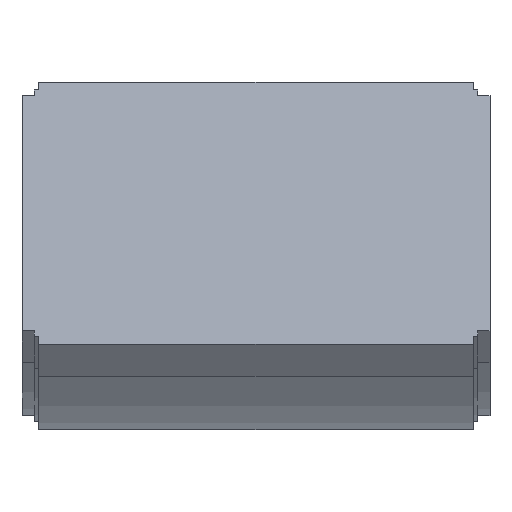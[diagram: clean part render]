
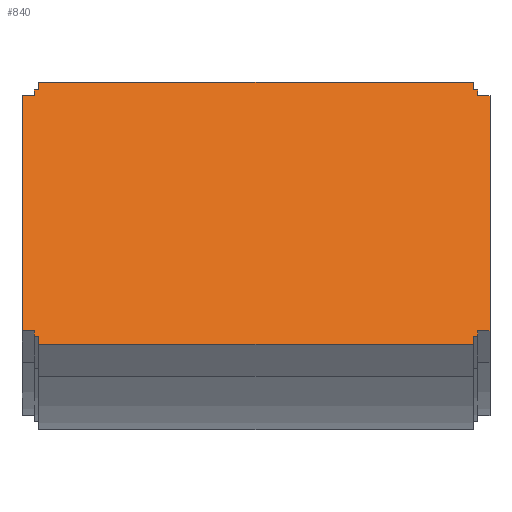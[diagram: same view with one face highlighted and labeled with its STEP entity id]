
A CAD part, top view. The second image highlights one B-rep face of the part: STEP entity #840.
In plain terms, the highlighted planar face has unit normal (0, 0.301, 0.954).
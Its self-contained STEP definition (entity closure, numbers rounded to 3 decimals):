
#18 = VERTEX_POINT ( 'NONE', #499 ) ;
#62 = ORIENTED_EDGE ( 'NONE', *, *, #1360, .T. ) ;
#69 = AXIS2_PLACEMENT_3D ( 'NONE', #369, #359, #901 ) ;
#82 = ORIENTED_EDGE ( 'NONE', *, *, #1041, .T. ) ;
#91 = ORIENTED_EDGE ( 'NONE', *, *, #117, .T. ) ;
#92 = LINE ( 'NONE', #869, #1089 ) ;
#94 = VECTOR ( 'NONE', #1061, 1000. ) ;
#97 = VERTEX_POINT ( 'NONE', #1122 ) ;
#117 = EDGE_CURVE ( 'NONE', #1058, #736, #513, .T. ) ;
#119 = VERTEX_POINT ( 'NONE', #257 ) ;
#125 = LINE ( 'NONE', #761, #94 ) ;
#126 = PLANE ( 'NONE',  #69 ) ;
#162 = ORIENTED_EDGE ( 'NONE', *, *, #828, .T. ) ;
#169 = ORIENTED_EDGE ( 'NONE', *, *, #1376, .T. ) ;
#184 = VERTEX_POINT ( 'NONE', #732 ) ;
#193 = VECTOR ( 'NONE', #1136, 1000. ) ;
#206 = VERTEX_POINT ( 'NONE', #717 ) ;
#207 = CARTESIAN_POINT ( 'NONE',  ( 110.25, 97.344, 234.505 ) ) ;
#225 = DIRECTION ( 'NONE',  ( -1., 0., 0. ) ) ;
#229 = CARTESIAN_POINT ( 'NONE',  ( 116.25, -19.487, 271.341 ) ) ;
#242 = ORIENTED_EDGE ( 'NONE', *, *, #329, .T. ) ;
#244 = CARTESIAN_POINT ( 'NONE',  ( 110.25, -19.487, 271.341 ) ) ;
#255 = CARTESIAN_POINT ( 'NONE',  ( 110.25, -22.348, 272.243 ) ) ;
#257 = CARTESIAN_POINT ( 'NONE',  ( -110.25, 100.205, 233.603 ) ) ;
#263 = DIRECTION ( 'NONE',  ( 0., -0.954, 0.301 ) ) ;
#275 = CARTESIAN_POINT ( 'NONE',  ( -110.25, -22.348, 272.243 ) ) ;
#297 = VECTOR ( 'NONE', #263, 1000. ) ;
#309 = CARTESIAN_POINT ( 'NONE',  ( -110.25, -19.487, 271.341 ) ) ;
#329 = EDGE_CURVE ( 'NONE', #672, #97, #1035, .T. ) ;
#342 = CARTESIAN_POINT ( 'NONE',  ( -110.25, 97.344, 234.505 ) ) ;
#359 = DIRECTION ( 'NONE',  ( 0., 0.301, 0.954 ) ) ;
#366 = ORIENTED_EDGE ( 'NONE', *, *, #909, .T. ) ;
#369 = CARTESIAN_POINT ( 'NONE',  ( -107.95, 100.205, 233.603 ) ) ;
#391 = VECTOR ( 'NONE', #668, 1000. ) ;
#396 = DIRECTION ( 'NONE',  ( 0., 0.954, -0.301 ) ) ;
#397 = VERTEX_POINT ( 'NONE', #554 ) ;
#400 = CARTESIAN_POINT ( 'NONE',  ( -107.95, 104.02, 232.4 ) ) ;
#405 = EDGE_CURVE ( 'NONE', #961, #1319, #1091, .T. ) ;
#419 = LINE ( 'NONE', #275, #1234 ) ;
#430 = ORIENTED_EDGE ( 'NONE', *, *, #405, .T. ) ;
#433 = VERTEX_POINT ( 'NONE', #342 ) ;
#437 = LINE ( 'NONE', #1042, #1375 ) ;
#440 = VERTEX_POINT ( 'NONE', #229 ) ;
#448 = LINE ( 'NONE', #504, #872 ) ;
#449 = ORIENTED_EDGE ( 'NONE', *, *, #1204, .T. ) ;
#465 = DIRECTION ( 'NONE',  ( 1., 0., 0. ) ) ;
#491 = DIRECTION ( 'NONE',  ( -1., 0., 0. ) ) ;
#496 = CARTESIAN_POINT ( 'NONE',  ( -107.95, 100.205, 233.603 ) ) ;
#499 = CARTESIAN_POINT ( 'NONE',  ( 110.25, 100.205, 233.603 ) ) ;
#504 = CARTESIAN_POINT ( 'NONE',  ( 110.25, 100.205, 233.603 ) ) ;
#508 = CARTESIAN_POINT ( 'NONE',  ( -107.95, -26.163, 273.446 ) ) ;
#513 = LINE ( 'NONE', #1361, #1079 ) ;
#522 = CARTESIAN_POINT ( 'NONE',  ( -110.25, 97.344, 234.505 ) ) ;
#526 = VECTOR ( 'NONE', #1082, 1000. ) ;
#532 = ORIENTED_EDGE ( 'NONE', *, *, #1147, .T. ) ;
#554 = CARTESIAN_POINT ( 'NONE',  ( 107.95, -26.163, 273.446 ) ) ;
#556 = LINE ( 'NONE', #496, #1271 ) ;
#580 = FACE_OUTER_BOUND ( 'NONE', #903, .T. ) ;
#584 = DIRECTION ( 'NONE',  ( 1., 0., 0. ) ) ;
#586 = ORIENTED_EDGE ( 'NONE', *, *, #1118, .T. ) ;
#595 = VECTOR ( 'NONE', #465, 1000. ) ;
#596 = CARTESIAN_POINT ( 'NONE',  ( -107.95, -22.348, 272.243 ) ) ;
#614 = VERTEX_POINT ( 'NONE', #1016 ) ;
#619 = LINE ( 'NONE', #956, #1048 ) ;
#646 = ORIENTED_EDGE ( 'NONE', *, *, #1301, .T. ) ;
#658 = CARTESIAN_POINT ( 'NONE',  ( -110.25, 100.205, 233.603 ) ) ;
#659 = ORIENTED_EDGE ( 'NONE', *, *, #699, .T. ) ;
#664 = VECTOR ( 'NONE', #584, 1000. ) ;
#668 = DIRECTION ( 'NONE',  ( 1., 0., 0. ) ) ;
#672 = VERTEX_POINT ( 'NONE', #809 ) ;
#699 = EDGE_CURVE ( 'NONE', #1043, #779, #419, .T. ) ;
#700 = CARTESIAN_POINT ( 'NONE',  ( -107.95, -26.163, 273.446 ) ) ;
#704 = ORIENTED_EDGE ( 'NONE', *, *, #870, .T. ) ;
#705 = EDGE_CURVE ( 'NONE', #440, #672, #1157, .T. ) ;
#717 = CARTESIAN_POINT ( 'NONE',  ( 110.25, -22.348, 272.243 ) ) ;
#721 = LINE ( 'NONE', #309, #595 ) ;
#732 = CARTESIAN_POINT ( 'NONE',  ( 107.95, 100.205, 233.603 ) ) ;
#736 = VERTEX_POINT ( 'NONE', #400 ) ;
#743 = CARTESIAN_POINT ( 'NONE',  ( -116.25, -19.487, 271.341 ) ) ;
#761 = CARTESIAN_POINT ( 'NONE',  ( 107.95, 100.205, 233.603 ) ) ;
#763 = ORIENTED_EDGE ( 'NONE', *, *, #705, .T. ) ;
#769 = LINE ( 'NONE', #1008, #1388 ) ;
#774 = VERTEX_POINT ( 'NONE', #700 ) ;
#775 = EDGE_CURVE ( 'NONE', #614, #774, #941, .T. ) ;
#779 = VERTEX_POINT ( 'NONE', #1128 ) ;
#782 = EDGE_CURVE ( 'NONE', #736, #959, #556, .T. ) ;
#804 = EDGE_CURVE ( 'NONE', #779, #614, #619, .T. ) ;
#809 = CARTESIAN_POINT ( 'NONE',  ( 116.25, 97.344, 234.505 ) ) ;
#818 = CARTESIAN_POINT ( 'NONE',  ( 116.25, -19.487, 271.341 ) ) ;
#828 = EDGE_CURVE ( 'NONE', #119, #433, #769, .T. ) ;
#838 = DIRECTION ( 'NONE',  ( 0., 0.954, -0.301 ) ) ;
#840 = ADVANCED_FACE ( 'NONE', ( #580 ), #126, .T. ) ;
#841 = LINE ( 'NONE', #1212, #664 ) ;
#869 = CARTESIAN_POINT ( 'NONE',  ( 110.25, 100.205, 233.603 ) ) ;
#870 = EDGE_CURVE ( 'NONE', #876, #440, #841, .T. ) ;
#872 = VECTOR ( 'NONE', #396, 1000. ) ;
#876 = VERTEX_POINT ( 'NONE', #244 ) ;
#895 = DIRECTION ( 'NONE',  ( 0., -0.954, 0.301 ) ) ;
#901 = DIRECTION ( 'NONE',  ( 1., 0., 0. ) ) ;
#903 = EDGE_LOOP ( 'NONE', ( #62, #162, #532, #430, #1302, #659, #1009, #1007, #449, #586, #1206, #366, #704, #763, #242, #82, #169, #646, #91, #1069 ) ) ;
#909 = EDGE_CURVE ( 'NONE', #206, #876, #1060, .T. ) ;
#941 = LINE ( 'NONE', #596, #297 ) ;
#956 = CARTESIAN_POINT ( 'NONE',  ( -110.25, -22.348, 272.243 ) ) ;
#959 = VERTEX_POINT ( 'NONE', #1356 ) ;
#961 = VERTEX_POINT ( 'NONE', #1021 ) ;
#964 = VECTOR ( 'NONE', #1174, 1000. ) ;
#985 = CARTESIAN_POINT ( 'NONE',  ( 110.25, -22.348, 272.243 ) ) ;
#989 = DIRECTION ( 'NONE',  ( -1., 0., 0. ) ) ;
#995 = LINE ( 'NONE', #508, #1011 ) ;
#1007 = ORIENTED_EDGE ( 'NONE', *, *, #775, .T. ) ;
#1008 = CARTESIAN_POINT ( 'NONE',  ( -110.25, 100.205, 233.603 ) ) ;
#1009 = ORIENTED_EDGE ( 'NONE', *, *, #804, .T. ) ;
#1011 = VECTOR ( 'NONE', #1260, 1000. ) ;
#1012 = DIRECTION ( 'NONE',  ( 0., 0.954, -0.301 ) ) ;
#1013 = VECTOR ( 'NONE', #1012, 1000. ) ;
#1016 = CARTESIAN_POINT ( 'NONE',  ( -107.95, -22.348, 272.243 ) ) ;
#1019 = CARTESIAN_POINT ( 'NONE',  ( 107.95, 104.02, 232.4 ) ) ;
#1021 = CARTESIAN_POINT ( 'NONE',  ( -116.25, 97.344, 234.505 ) ) ;
#1035 = LINE ( 'NONE', #207, #964 ) ;
#1041 = EDGE_CURVE ( 'NONE', #97, #18, #448, .T. ) ;
#1042 = CARTESIAN_POINT ( 'NONE',  ( 107.95, -22.348, 272.243 ) ) ;
#1043 = VERTEX_POINT ( 'NONE', #1134 ) ;
#1047 = DIRECTION ( 'NONE',  ( -1., 0., 0. ) ) ;
#1048 = VECTOR ( 'NONE', #1286, 1000. ) ;
#1058 = VERTEX_POINT ( 'NONE', #1019 ) ;
#1060 = LINE ( 'NONE', #255, #1013 ) ;
#1061 = DIRECTION ( 'NONE',  ( 0., 0.954, -0.301 ) ) ;
#1069 = ORIENTED_EDGE ( 'NONE', *, *, #782, .T. ) ;
#1079 = VECTOR ( 'NONE', #491, 1000. ) ;
#1082 = DIRECTION ( 'NONE',  ( 0., -0.954, 0.301 ) ) ;
#1085 = CARTESIAN_POINT ( 'NONE',  ( -116.25, -19.487, 271.341 ) ) ;
#1089 = VECTOR ( 'NONE', #989, 1000. ) ;
#1091 = LINE ( 'NONE', #1085, #526 ) ;
#1102 = VECTOR ( 'NONE', #1047, 1000. ) ;
#1115 = LINE ( 'NONE', #985, #391 ) ;
#1118 = EDGE_CURVE ( 'NONE', #397, #1245, #437, .T. ) ;
#1122 = CARTESIAN_POINT ( 'NONE',  ( 110.25, 97.344, 234.505 ) ) ;
#1128 = CARTESIAN_POINT ( 'NONE',  ( -110.25, -22.348, 272.243 ) ) ;
#1134 = CARTESIAN_POINT ( 'NONE',  ( -110.25, -19.487, 271.341 ) ) ;
#1136 = DIRECTION ( 'NONE',  ( 0., 0.954, -0.301 ) ) ;
#1147 = EDGE_CURVE ( 'NONE', #433, #961, #1230, .T. ) ;
#1157 = LINE ( 'NONE', #818, #193 ) ;
#1165 = DIRECTION ( 'NONE',  ( 0., -0.954, 0.301 ) ) ;
#1171 = CARTESIAN_POINT ( 'NONE',  ( 107.95, -22.348, 272.243 ) ) ;
#1174 = DIRECTION ( 'NONE',  ( -1., 0., 0. ) ) ;
#1204 = EDGE_CURVE ( 'NONE', #774, #397, #995, .T. ) ;
#1206 = ORIENTED_EDGE ( 'NONE', *, *, #1350, .T. ) ;
#1212 = CARTESIAN_POINT ( 'NONE',  ( 110.25, -19.487, 271.341 ) ) ;
#1230 = LINE ( 'NONE', #522, #1102 ) ;
#1234 = VECTOR ( 'NONE', #1359, 1000. ) ;
#1245 = VERTEX_POINT ( 'NONE', #1171 ) ;
#1260 = DIRECTION ( 'NONE',  ( 1., 0., 0. ) ) ;
#1271 = VECTOR ( 'NONE', #1165, 1000. ) ;
#1286 = DIRECTION ( 'NONE',  ( 1., 0., 0. ) ) ;
#1301 = EDGE_CURVE ( 'NONE', #184, #1058, #125, .T. ) ;
#1302 = ORIENTED_EDGE ( 'NONE', *, *, #1334, .T. ) ;
#1319 = VERTEX_POINT ( 'NONE', #743 ) ;
#1334 = EDGE_CURVE ( 'NONE', #1319, #1043, #721, .T. ) ;
#1350 = EDGE_CURVE ( 'NONE', #1245, #206, #1115, .T. ) ;
#1356 = CARTESIAN_POINT ( 'NONE',  ( -107.95, 100.205, 233.603 ) ) ;
#1359 = DIRECTION ( 'NONE',  ( 0., -0.954, 0.301 ) ) ;
#1360 = EDGE_CURVE ( 'NONE', #959, #119, #1402, .T. ) ;
#1361 = CARTESIAN_POINT ( 'NONE',  ( -107.95, 104.02, 232.4 ) ) ;
#1375 = VECTOR ( 'NONE', #838, 1000. ) ;
#1376 = EDGE_CURVE ( 'NONE', #18, #184, #92, .T. ) ;
#1387 = VECTOR ( 'NONE', #225, 1000. ) ;
#1388 = VECTOR ( 'NONE', #895, 1000. ) ;
#1402 = LINE ( 'NONE', #658, #1387 ) ;
